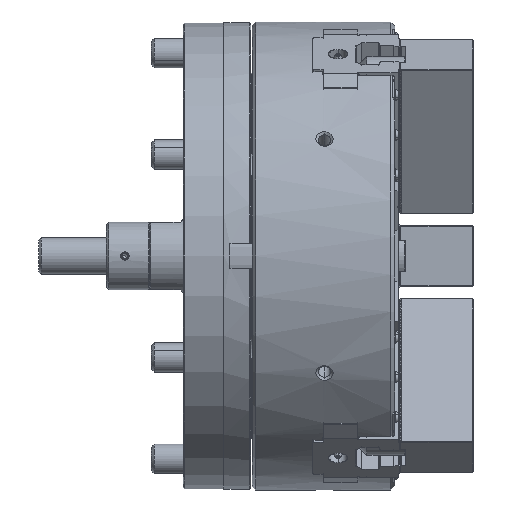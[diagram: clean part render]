
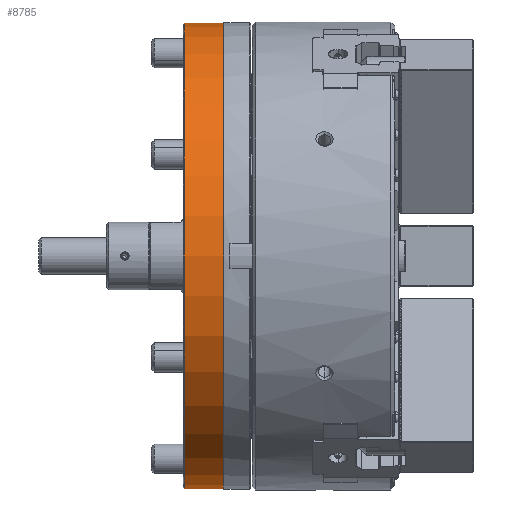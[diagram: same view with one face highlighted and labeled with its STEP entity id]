
A CAD part, front view. The second image highlights one B-rep face of the part: STEP entity #8785.
In plain terms, the highlighted cylindrical face has radius 189.5 mm (diameter 379 mm), a partial arc.
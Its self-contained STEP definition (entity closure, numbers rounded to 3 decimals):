
#1576 = CARTESIAN_POINT ( 'NONE',  ( -378.898, 0., -189.5 ) ) ;
#6597 = DIRECTION ( 'NONE',  ( 0., 0., 1. ) ) ;
#7945 = DIRECTION ( 'NONE',  ( 0., 0., 1. ) ) ;
#8785 = ADVANCED_FACE ( 'NONE', ( #11391 ), #35864, .T. ) ;
#11391 = FACE_OUTER_BOUND ( 'NONE', #65021, .T. ) ;
#15108 = EDGE_CURVE ( 'NONE', #139349, #85254, #155643, .T. ) ;
#19415 = DIRECTION ( 'NONE',  ( -1., 0., 0. ) ) ;
#20964 = AXIS2_PLACEMENT_3D ( 'NONE', #117632, #114195, #7945 ) ;
#35864 = CYLINDRICAL_SURFACE ( 'NONE', #20964, 189.5 ) ;
#38605 = EDGE_CURVE ( 'NONE', #139349, #145629, #67859, .T. ) ;
#41196 = ORIENTED_EDGE ( 'NONE', *, *, #15108, .T. ) ;
#47316 = AXIS2_PLACEMENT_3D ( 'NONE', #135562, #137267, #6597 ) ;
#47745 = EDGE_CURVE ( 'NONE', #85254, #140706, #71732, .T. ) ;
#61381 = VECTOR ( 'NONE', #80076, 1000. ) ;
#61820 = CARTESIAN_POINT ( 'NONE',  ( -171., 0., -189.5 ) ) ;
#64301 = DIRECTION ( 'NONE',  ( 0., 0., 1. ) ) ;
#65021 = EDGE_LOOP ( 'NONE', ( #88045, #41196, #138817, #84486 ) ) ;
#67859 = LINE ( 'NONE', #1576, #61381 ) ;
#71732 = LINE ( 'NONE', #101239, #77239 ) ;
#75640 = DIRECTION ( 'NONE',  ( -1., 0., 0. ) ) ;
#77239 = VECTOR ( 'NONE', #19415, 1000. ) ;
#80076 = DIRECTION ( 'NONE',  ( -1., 0., 0. ) ) ;
#84486 = ORIENTED_EDGE ( 'NONE', *, *, #95382, .F. ) ;
#85254 = VERTEX_POINT ( 'NONE', #153730 ) ;
#88045 = ORIENTED_EDGE ( 'NONE', *, *, #38605, .F. ) ;
#91530 = AXIS2_PLACEMENT_3D ( 'NONE', #105181, #75640, #64301 ) ;
#94381 = CIRCLE ( 'NONE', #91530, 189.5 ) ;
#95382 = EDGE_CURVE ( 'NONE', #145629, #140706, #94381, .T. ) ;
#101239 = CARTESIAN_POINT ( 'NONE',  ( -378.898, 0., 189.5 ) ) ;
#105181 = CARTESIAN_POINT ( 'NONE',  ( -171., 0., 0. ) ) ;
#114195 = DIRECTION ( 'NONE',  ( -1., 0., 0. ) ) ;
#117632 = CARTESIAN_POINT ( 'NONE',  ( -378.898, 0., 0. ) ) ;
#126095 = CARTESIAN_POINT ( 'NONE',  ( -171., 0., 189.5 ) ) ;
#135562 = CARTESIAN_POINT ( 'NONE',  ( -139.5, 0., 0. ) ) ;
#137267 = DIRECTION ( 'NONE',  ( -1., 0., 0. ) ) ;
#138817 = ORIENTED_EDGE ( 'NONE', *, *, #47745, .T. ) ;
#139349 = VERTEX_POINT ( 'NONE', #145962 ) ;
#140706 = VERTEX_POINT ( 'NONE', #126095 ) ;
#145629 = VERTEX_POINT ( 'NONE', #61820 ) ;
#145962 = CARTESIAN_POINT ( 'NONE',  ( -139.5, 0., -189.5 ) ) ;
#153730 = CARTESIAN_POINT ( 'NONE',  ( -139.5, 0., 189.5 ) ) ;
#155643 = CIRCLE ( 'NONE', #47316, 189.5 ) ;
